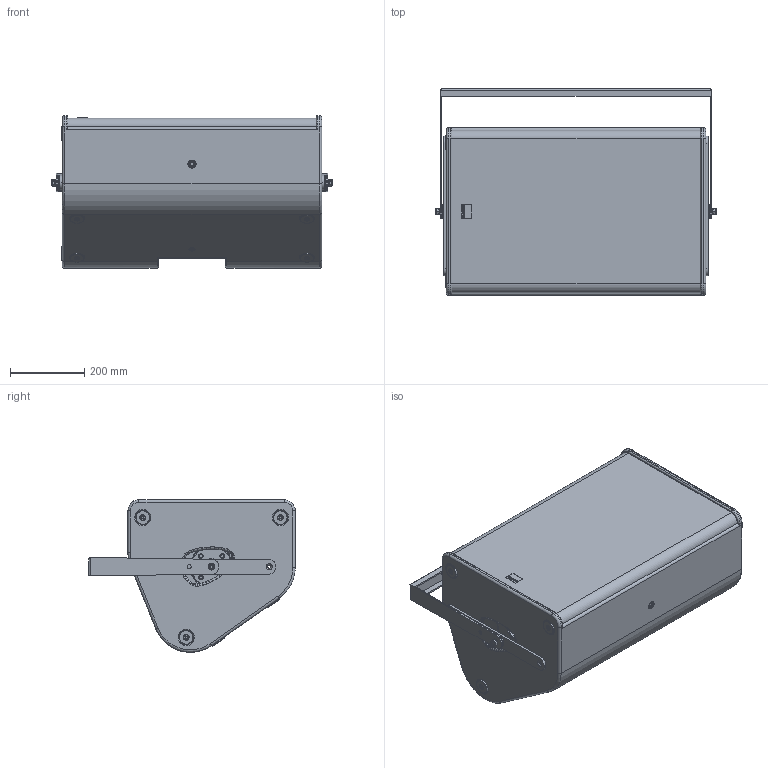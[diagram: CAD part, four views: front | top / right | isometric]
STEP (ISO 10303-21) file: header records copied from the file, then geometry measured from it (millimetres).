
FILE_DESCRIPTION (( 'STEP AP203' ), '1' );
FILE_NAME ('Seeburg_TSM15_Bracket_hor.STEP', '2012-10-17T12:18:22', ( 'Fabian' ), ( '' ), 'SwSTEP 2.0', 'SolidWorks 2009', '' );
FILE_SCHEMA (( 'CONFIG_CONTROL_DESIGN' ));
Length unit declared in the file: millimetre
Products named in the file (30): Imported114; Imported120; Imported119; Imported121; Imported126; Imported127; Imported132; Imported133; Imported138; Imported140; Imported139; Seeburg_TSM15_Bracket_hor; TSM15_Bracket-hor; Imported115; Imported116; Imported117; Imported118; Imported122; Imported123; Imported124; Imported125; Imported128; Imported129; Imported130; Imported131; Imported134; Imported135; Imported136; Imported137; Imported141
Assembly tree (29 placements, depth 3):
  Seeburg_TSM15_Bracket_hor
    TSM15_Bracket-hor
      Imported122
      Imported128
      Imported115
      Imported136
      Imported118
      Imported125
      Imported133
      Imported130
      Imported120
      Imported126
      Imported119
      Imported121
      Imported124
      Imported132
      Imported141
      Imported117
      Imported137
      Imported138
      Imported116
      Imported134
      Imported114
      Imported131
      Imported127
      Imported135
      Imported129
      Imported140
      Imported123
      Imported139
Bounding box: 755.47 x 555 x 409.91 mm (x, y, z)
Volume: 22268102.6 mm3; surface area: 3137558.3 mm2
Topology: 36 solids, 36 shells, 1268 faces, 3037 edges, 1868 vertices
Faces by surface type: cylinder 644, plane 416, torus 102, cone 68, sphere 34, bspline 4
Entity records: 53307 total; most frequent: CARTESIAN_POINT 20934, DIRECTION 6104, ORIENTED_EDGE 6034, EDGE_CURVE 3017, AXIS2_PLACEMENT_3D 2267, VERTEX_POINT 1858, VECTOR 1570, LINE 1570
